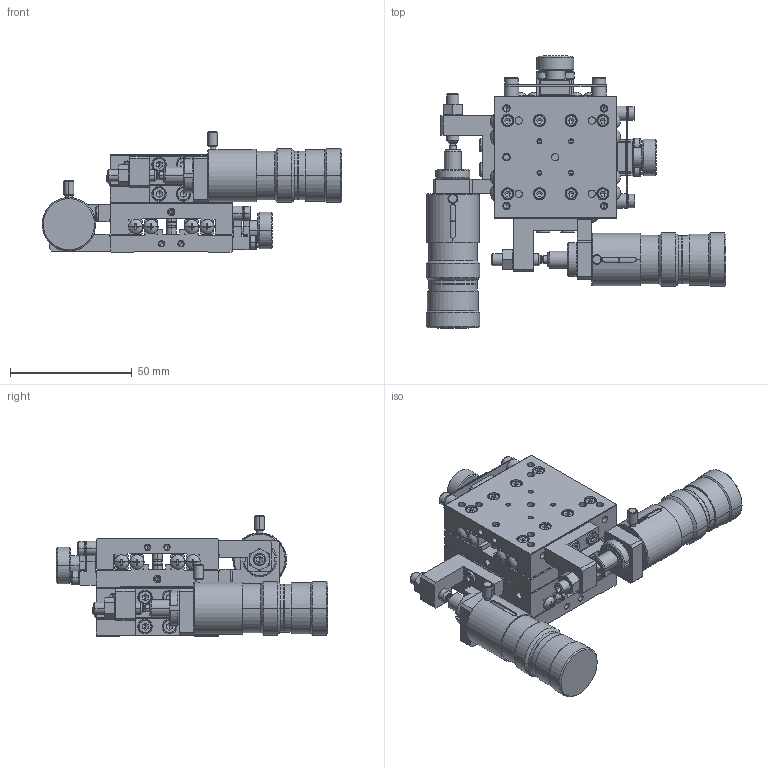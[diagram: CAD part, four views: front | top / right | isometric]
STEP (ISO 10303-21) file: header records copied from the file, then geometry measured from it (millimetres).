
FILE_DESCRIPTION (( 'STEP AP214' ), '1' );
FILE_NAME ('YM05A-S3-CL.STEP', '2007-08-07T01:52:41', ( ' ' ), ( ' ' ), 'SwSTEP 2.0', 'SolidWorks 2006052', '' );
FILE_SCHEMA (( 'AUTOMOTIVE_DESIGN' ));
Products named in the file (6): YM05A-S3-CL; XM05A-S3-CL(PL)-1; 001010-1011(3D)-7; 001010-1011(3D)-6; 001010-1023(3D)-5; XM05A-S3-CL(PL)
Assembly tree (5 placements, depth 3):
  YM05A-S3-CL
    XM05A-S3-CL(PL)
      001010-1011(3D)-6
      001010-1023(3D)-5
    XM05A-S3-CL(PL)-1
      001010-1011(3D)-7
Bounding box: 123 x 111.5 x 49.5 mm (x, y, z)
Volume: 137788.6 mm3; surface area: 74173.3 mm2
Topology: 3 solids, 115 shells, 3676 faces, 8334 edges, 4904 vertices
Faces by surface type: plane 1718, cylinder 1074, cone 688, torus 160, sphere 36
Entity records: 102050 total; most frequent: DIRECTION 18718, CARTESIAN_POINT 18488, ORIENTED_EDGE 16212, EDGE_CURVE 8106, AXIS2_PLACEMENT_3D 7202, VERTEX_POINT 4904, VECTOR 4314, LINE 4314
